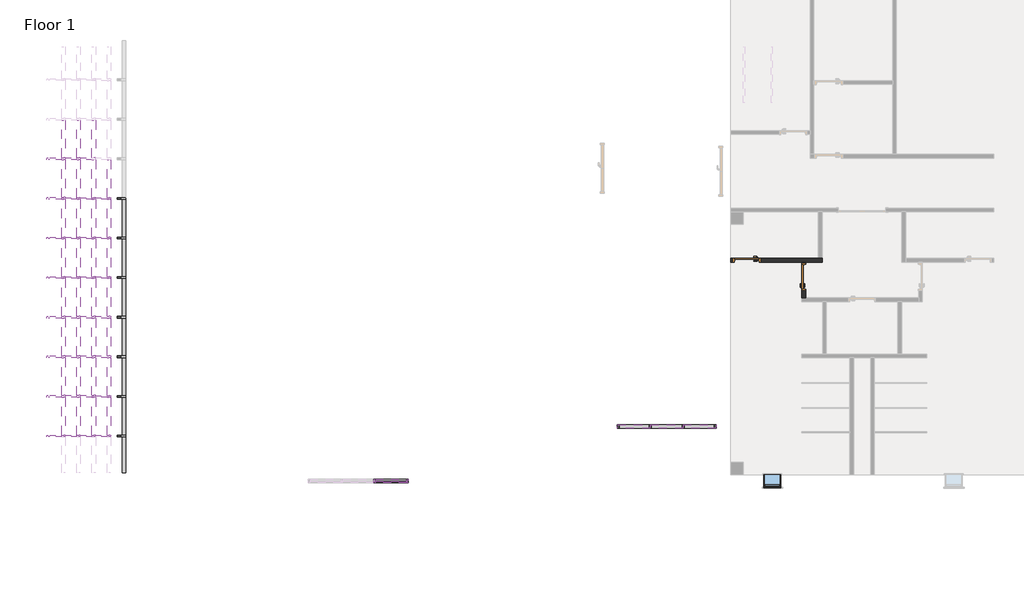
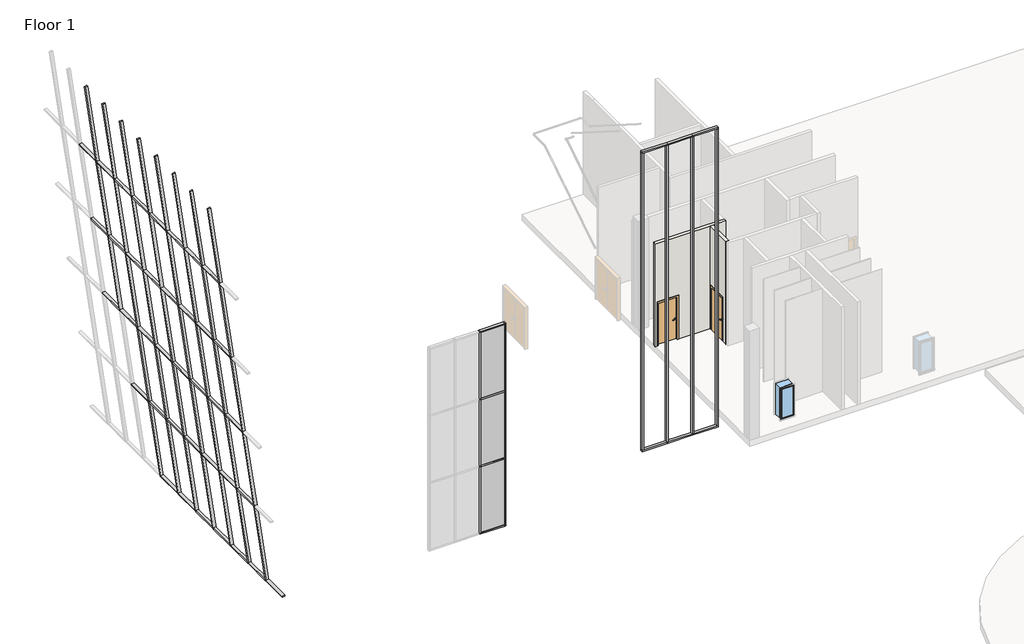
# One storey, part 3 of 11: 96 members, 3 plates, 2 doors, 2 walls, 1 window.
"""IFC4 building model written with IfcOpenShell, lengths in millimetres."""

from ifc_helpers import new_model, si_unit, frame, origin, place, context, project, spatial, polyline, outline, extrude, faceted_brep, transform, mapped, element, save
from components import door_36f17018, door_a46f4f49, member_7ac431fd, member_8669c44b, member_bd9c79d2, member_f8a9089e, member_5e02c13a, member_8caa64b4, member_b283b77b, member_01a33192, member_b037884b, member_01a4c065, member_349911e8, member_7b18d258, member_74dafc5e, member_9434a11c, system_panel_glazed_b92d501e, window_69ce9bab

model = new_model("IFC4")

# Units and contexts
model_context = context("Model", 3, world=origin())
ifc_project = project(units=[si_unit("LENGTHUNIT", "METRE", prefix="MILLI")], contexts=[model_context])

# Site, building, storey
site = spatial("IfcSite", under=ifc_project)
building = spatial("IfcBuilding", under=site)
storey = spatial("IfcBuildingStorey", under=building, Name="Floor 1", Elevation=0.0)

# Doors
placement = place(None, origin())
door_shape = door_36f17018(model_context)
element("IfcDoor", 1, ObjectType="Door-Passage-Single-Flush : 36\" x 84\"", at=placement, inside=storey, context=model_context, shape_type="MappedRepresentation", body=[
    mapped(door_shape, transform((-2380.0102165, 46455.811889, 0.0), x_axis=(-1.0, 0.0, 0.0), y_axis=(0.0, -1.0, 0.0), z_axis=(0.0, 0.0, 1.0))),
])
door_2_shape = door_a46f4f49(model_context)
element("IfcDoor", 2, ObjectType="Door-Passage-Single-Flush : 36\" x 84\"", at=placement, inside=storey, context=model_context, shape_type="MappedRepresentation", body=[
    mapped(door_2_shape, transform((-290.4807976, 45852.561889, 0.0), x_axis=(0.0, 1.0, 0.0), y_axis=(-1.0, 0.0, 0.0), z_axis=(0.0, 0.0, 1.0))),
])

# Members
member_shape = member_7ac431fd(model_context)
element("IfcMember", 3, ObjectType="Rectangular Mullion1 : 2.5\" x 5\" rectangular", at=placement, inside=storey, context=model_context, shape_type="MappedRepresentation", body=[
    mapped(member_shape, transform((-3497.6102165, 40372.511889, -152.4), x_axis=(0.0, 0.0, -1.0), y_axis=(0.0, 1.0, 0.0), z_axis=(1.0, 0.0, 0.0))),
])
element("IfcMember", 4, ObjectType="Rectangular Mullion1 : 2.5\" x 5\" rectangular", at=placement, inside=storey, context=model_context, shape_type="MappedRepresentation", body=[
    mapped(member_shape, transform((-7104.0307976, 40372.511889, 14935.2), x_axis=(0.0, 0.0, 1.0), y_axis=(0.0, 1.0, 0.0), z_axis=(-1.0, 0.0, 0.0))),
])
member_2_shape = member_8669c44b(model_context)
element("IfcMember", 5, ObjectType="Rectangular Mullion1 : 2.5\" x 5\" rectangular", at=placement, inside=storey, context=model_context, shape_type="MappedRepresentation", body=[
    mapped(member_2_shape, transform((-5901.8906039, 40372.511889, -88.9), x_axis=(-1.0, 0.0, 0.0), y_axis=(0.0, 1.0, 0.0), z_axis=(0.0, 0.0, -1.0))),
])
element("IfcMember", 6, ObjectType="Rectangular Mullion1 : 2.5\" x 5\" rectangular", at=placement, inside=storey, context=model_context, shape_type="MappedRepresentation", body=[
    mapped(member_2_shape, transform((-4699.7504102, 40372.511889, -88.9), x_axis=(-1.0, 0.0, 0.0), y_axis=(0.0, 1.0, 0.0), z_axis=(0.0, 0.0, -1.0))),
])
element("IfcMember", 7, ObjectType="Rectangular Mullion1 : 2.5\" x 5\" rectangular", at=placement, inside=storey, context=model_context, shape_type="MappedRepresentation", body=[
    mapped(member_shape, transform((-5901.8906039, 40372.511889, -152.4), x_axis=(0.0, 0.0, -1.0), y_axis=(0.0, 1.0, 0.0), z_axis=(1.0, 0.0, 0.0))),
])
element("IfcMember", 8, ObjectType="Rectangular Mullion1 : 2.5\" x 5\" rectangular", at=placement, inside=storey, context=model_context, shape_type="MappedRepresentation", body=[
    mapped(member_shape, transform((-4699.7504102, 40372.511889, -152.4), x_axis=(0.0, 0.0, -1.0), y_axis=(0.0, 1.0, 0.0), z_axis=(1.0, 0.0, 0.0))),
])
element("IfcMember", 9, ObjectType="Rectangular Mullion1 : 2.5\" x 5\" rectangular", at=placement, inside=storey, context=model_context, shape_type="MappedRepresentation", body=[
    mapped(member_shape, transform((-5901.8906039, 40372.511889, 14935.2), x_axis=(0.0, 0.0, 1.0), y_axis=(0.0, 1.0, 0.0), z_axis=(-1.0, 0.0, 0.0))),
])
element("IfcMember", 10, ObjectType="Rectangular Mullion1 : 2.5\" x 5\" rectangular", at=placement, inside=storey, context=model_context, shape_type="MappedRepresentation", body=[
    mapped(member_shape, transform((-4699.7504102, 40372.511889, 14935.2), x_axis=(0.0, 0.0, 1.0), y_axis=(0.0, 1.0, 0.0), z_axis=(-1.0, 0.0, 0.0))),
])
member_3_shape = member_bd9c79d2(model_context)
element("IfcMember", 11, ObjectType="Rectangular Mullion1 : 2.5\" x 5\" rectangular", at=placement, inside=storey, context=model_context, shape_type="MappedRepresentation", body=[
    mapped(member_3_shape, transform((-7104.0307976, 40372.511889, -88.9), x_axis=(-1.0, 0.0, 0.0), y_axis=(0.0, 1.0, 0.0), z_axis=(0.0, 0.0, -1.0))),
])
element("IfcMember", 12, ObjectType="Rectangular Mullion1 : 2.5\" x 5\" rectangular", at=placement, inside=storey, context=model_context, shape_type="MappedRepresentation", body=[
    mapped(member_3_shape, transform((-3497.6102165, 40372.511889, 14871.7), x_axis=(1.0, 0.0, 0.0), y_axis=(0.0, 1.0, 0.0), z_axis=(0.0, 0.0, 1.0))),
])
member_4_shape = member_f8a9089e(model_context)
element("IfcMember", 13, ObjectType="Rectangular Mullion1 : 2.5\" x 5\" rectangular", at=placement, inside=storey, context=model_context, shape_type="MappedRepresentation", body=[
    mapped(member_4_shape, transform((-25136.1948919, 40001.891697, -154.1674984), x_axis=(0.13917310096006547, 0.0, -0.9902680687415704), y_axis=(-0.9902680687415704, 0.0, -0.13917310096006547), z_axis=(0.0, 1.0, 0.0))),
])
member_5_shape = member_5e02c13a(model_context)
element("IfcMember", 14, ObjectType="Rectangular Mullion1 : 2.5\" x 5\" rectangular", at=placement, inside=storey, context=model_context, shape_type="MappedRepresentation", body=[
    mapped(member_5_shape, transform((-25136.1948919, 48684.2955428, -154.1674984), x_axis=(0.13917310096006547, 0.0, -0.9902680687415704), y_axis=(-0.9902680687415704, 0.0, -0.13917310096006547), z_axis=(0.0, 1.0, 0.0))),
])
element("IfcMember", 15, ObjectType="Rectangular Mullion1 : 2.5\" x 5\" rectangular", at=placement, inside=storey, context=model_context, shape_type="MappedRepresentation", body=[
    mapped(member_5_shape, transform((-25136.1948919, 47237.2282352, -154.1674984), x_axis=(0.13917310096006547, 0.0, -0.9902680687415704), y_axis=(-0.9902680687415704, 0.0, -0.13917310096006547), z_axis=(0.0, 1.0, 0.0))),
])
element("IfcMember", 16, ObjectType="Rectangular Mullion1 : 2.5\" x 5\" rectangular", at=placement, inside=storey, context=model_context, shape_type="MappedRepresentation", body=[
    mapped(member_5_shape, transform((-25136.1948919, 45790.1609275, -154.1674984), x_axis=(0.13917310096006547, 0.0, -0.9902680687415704), y_axis=(-0.9902680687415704, 0.0, -0.13917310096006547), z_axis=(0.0, 1.0, 0.0))),
])
element("IfcMember", 17, ObjectType="Rectangular Mullion1 : 2.5\" x 5\" rectangular", at=placement, inside=storey, context=model_context, shape_type="MappedRepresentation", body=[
    mapped(member_5_shape, transform((-25136.1948919, 44343.0936199, -154.1674984), x_axis=(0.13917310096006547, 0.0, -0.9902680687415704), y_axis=(-0.9902680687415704, 0.0, -0.13917310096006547), z_axis=(0.0, 1.0, 0.0))),
])
element("IfcMember", 18, ObjectType="Rectangular Mullion1 : 2.5\" x 5\" rectangular", at=placement, inside=storey, context=model_context, shape_type="MappedRepresentation", body=[
    mapped(member_5_shape, transform((-25136.1948919, 42896.0263122, -154.1674984), x_axis=(0.13917310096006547, 0.0, -0.9902680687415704), y_axis=(-0.9902680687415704, 0.0, -0.13917310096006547), z_axis=(0.0, 1.0, 0.0))),
])
element("IfcMember", 19, ObjectType="Rectangular Mullion1 : 2.5\" x 5\" rectangular", at=placement, inside=storey, context=model_context, shape_type="MappedRepresentation", body=[
    mapped(member_5_shape, transform((-25136.1948919, 41448.9590046, -154.1674984), x_axis=(0.13917310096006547, 0.0, -0.9902680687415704), y_axis=(-0.9902680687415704, 0.0, -0.13917310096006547), z_axis=(0.0, 1.0, 0.0))),
])
member_6_shape = member_8caa64b4(model_context)
element("IfcMember", 20, ObjectType="Rectangular Mullion1 : 2.5\" x 5\" rectangular", at=placement, inside=storey, context=model_context, shape_type="MappedRepresentation", body=[
    mapped(member_6_shape, transform((-25693.3790742, 48747.7955428, 3810.4039622), x_axis=(-0.13917310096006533, 0.0, 0.9902680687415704), y_axis=(-0.9902680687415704, 0.0, -0.13917310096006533), z_axis=(0.0, -1.0, 0.0))),
])
element("IfcMember", 21, ObjectType="Rectangular Mullion1 : 2.5\" x 5\" rectangular", at=placement, inside=storey, context=model_context, shape_type="MappedRepresentation", body=[
    mapped(member_6_shape, transform((-25693.3790742, 47300.7282352, 3810.4039622), x_axis=(-0.13917310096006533, 0.0, 0.9902680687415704), y_axis=(-0.9902680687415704, 0.0, -0.13917310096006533), z_axis=(0.0, -1.0, 0.0))),
])
element("IfcMember", 22, ObjectType="Rectangular Mullion1 : 2.5\" x 5\" rectangular", at=placement, inside=storey, context=model_context, shape_type="MappedRepresentation", body=[
    mapped(member_6_shape, transform((-25693.3790742, 45853.6609275, 3810.4039622), x_axis=(-0.13917310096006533, 0.0, 0.9902680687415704), y_axis=(-0.9902680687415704, 0.0, -0.13917310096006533), z_axis=(0.0, -1.0, 0.0))),
])
element("IfcMember", 23, ObjectType="Rectangular Mullion1 : 2.5\" x 5\" rectangular", at=placement, inside=storey, context=model_context, shape_type="MappedRepresentation", body=[
    mapped(member_6_shape, transform((-25693.3790742, 44406.5936199, 3810.4039622), x_axis=(-0.13917310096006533, 0.0, 0.9902680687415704), y_axis=(-0.9902680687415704, 0.0, -0.13917310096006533), z_axis=(0.0, -1.0, 0.0))),
])
element("IfcMember", 24, ObjectType="Rectangular Mullion1 : 2.5\" x 5\" rectangular", at=placement, inside=storey, context=model_context, shape_type="MappedRepresentation", body=[
    mapped(member_6_shape, transform((-25693.3790742, 42959.5263122, 3810.4039622), x_axis=(-0.13917310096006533, 0.0, 0.9902680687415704), y_axis=(-0.9902680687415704, 0.0, -0.13917310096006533), z_axis=(0.0, -1.0, 0.0))),
])
element("IfcMember", 25, ObjectType="Rectangular Mullion1 : 2.5\" x 5\" rectangular", at=placement, inside=storey, context=model_context, shape_type="MappedRepresentation", body=[
    mapped(member_6_shape, transform((-25693.3790742, 41512.4590046, 3810.4039622), x_axis=(-0.13917310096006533, 0.0, 0.9902680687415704), y_axis=(-0.9902680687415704, 0.0, -0.13917310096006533), z_axis=(0.0, -1.0, 0.0))),
])
element("IfcMember", 26, ObjectType="Rectangular Mullion1 : 2.5\" x 5\" rectangular", at=placement, inside=storey, context=model_context, shape_type="MappedRepresentation", body=[
    mapped(member_6_shape, transform((-25693.3790742, 40065.391697, 3810.4039622), x_axis=(-0.13917310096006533, 0.0, 0.9902680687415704), y_axis=(-0.9902680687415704, 0.0, -0.13917310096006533), z_axis=(0.0, -1.0, 0.0))),
])
element("IfcMember", 27, ObjectType="Rectangular Mullion1 : 2.5\" x 5\" rectangular", at=placement, inside=storey, context=model_context, shape_type="MappedRepresentation", body=[
    mapped(member_6_shape, transform((-26246.1445106, 50194.8628505, 7743.5344115), x_axis=(-0.13917310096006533, 0.0, 0.9902680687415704), y_axis=(-0.9902680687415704, 0.0, -0.13917310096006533), z_axis=(0.0, -1.0, 0.0))),
])
element("IfcMember", 28, ObjectType="Rectangular Mullion1 : 2.5\" x 5\" rectangular", at=placement, inside=storey, context=model_context, shape_type="MappedRepresentation", body=[
    mapped(member_6_shape, transform((-26246.1445106, 48747.7955428, 7743.5344115), x_axis=(-0.13917310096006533, 0.0, 0.9902680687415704), y_axis=(-0.9902680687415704, 0.0, -0.13917310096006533), z_axis=(0.0, -1.0, 0.0))),
])
element("IfcMember", 29, ObjectType="Rectangular Mullion1 : 2.5\" x 5\" rectangular", at=placement, inside=storey, context=model_context, shape_type="MappedRepresentation", body=[
    mapped(member_6_shape, transform((-26246.1445106, 47300.7282352, 7743.5344115), x_axis=(-0.13917310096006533, 0.0, 0.9902680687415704), y_axis=(-0.9902680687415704, 0.0, -0.13917310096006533), z_axis=(0.0, -1.0, 0.0))),
])
element("IfcMember", 30, ObjectType="Rectangular Mullion1 : 2.5\" x 5\" rectangular", at=placement, inside=storey, context=model_context, shape_type="MappedRepresentation", body=[
    mapped(member_6_shape, transform((-26246.1445106, 45853.6609275, 7743.5344115), x_axis=(-0.13917310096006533, 0.0, 0.9902680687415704), y_axis=(-0.9902680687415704, 0.0, -0.13917310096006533), z_axis=(0.0, -1.0, 0.0))),
])
element("IfcMember", 31, ObjectType="Rectangular Mullion1 : 2.5\" x 5\" rectangular", at=placement, inside=storey, context=model_context, shape_type="MappedRepresentation", body=[
    mapped(member_6_shape, transform((-26246.1445106, 44406.5936199, 7743.5344115), x_axis=(-0.13917310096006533, 0.0, 0.9902680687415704), y_axis=(-0.9902680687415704, 0.0, -0.13917310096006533), z_axis=(0.0, -1.0, 0.0))),
])
element("IfcMember", 32, ObjectType="Rectangular Mullion1 : 2.5\" x 5\" rectangular", at=placement, inside=storey, context=model_context, shape_type="MappedRepresentation", body=[
    mapped(member_6_shape, transform((-26246.1445106, 42959.5263122, 7743.5344115), x_axis=(-0.13917310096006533, 0.0, 0.9902680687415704), y_axis=(-0.9902680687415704, 0.0, -0.13917310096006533), z_axis=(0.0, -1.0, 0.0))),
])
element("IfcMember", 33, ObjectType="Rectangular Mullion1 : 2.5\" x 5\" rectangular", at=placement, inside=storey, context=model_context, shape_type="MappedRepresentation", body=[
    mapped(member_6_shape, transform((-26246.1445106, 41512.4590046, 7743.5344115), x_axis=(-0.13917310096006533, 0.0, 0.9902680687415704), y_axis=(-0.9902680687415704, 0.0, -0.13917310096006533), z_axis=(0.0, -1.0, 0.0))),
])
element("IfcMember", 34, ObjectType="Rectangular Mullion1 : 2.5\" x 5\" rectangular", at=placement, inside=storey, context=model_context, shape_type="MappedRepresentation", body=[
    mapped(member_6_shape, transform((-26246.1445106, 40065.391697, 7743.5344115), x_axis=(-0.13917310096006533, 0.0, 0.9902680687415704), y_axis=(-0.9902680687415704, 0.0, -0.13917310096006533), z_axis=(0.0, -1.0, 0.0))),
])
element("IfcMember", 35, ObjectType="Rectangular Mullion1 : 2.5\" x 5\" rectangular", at=placement, inside=storey, context=model_context, shape_type="MappedRepresentation", body=[
    mapped(member_6_shape, transform((-26798.9099469, 50194.8628505, 11676.6648609), x_axis=(-0.13917310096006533, 0.0, 0.9902680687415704), y_axis=(-0.9902680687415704, 0.0, -0.13917310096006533), z_axis=(0.0, -1.0, 0.0))),
])
element("IfcMember", 36, ObjectType="Rectangular Mullion1 : 2.5\" x 5\" rectangular", at=placement, inside=storey, context=model_context, shape_type="MappedRepresentation", body=[
    mapped(member_6_shape, transform((-26798.9099469, 48747.7955428, 11676.6648609), x_axis=(-0.13917310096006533, 0.0, 0.9902680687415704), y_axis=(-0.9902680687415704, 0.0, -0.13917310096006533), z_axis=(0.0, -1.0, 0.0))),
])
element("IfcMember", 37, ObjectType="Rectangular Mullion1 : 2.5\" x 5\" rectangular", at=placement, inside=storey, context=model_context, shape_type="MappedRepresentation", body=[
    mapped(member_6_shape, transform((-26798.9099469, 47300.7282352, 11676.6648609), x_axis=(-0.13917310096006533, 0.0, 0.9902680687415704), y_axis=(-0.9902680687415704, 0.0, -0.13917310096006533), z_axis=(0.0, -1.0, 0.0))),
])
element("IfcMember", 38, ObjectType="Rectangular Mullion1 : 2.5\" x 5\" rectangular", at=placement, inside=storey, context=model_context, shape_type="MappedRepresentation", body=[
    mapped(member_6_shape, transform((-26798.9099469, 45853.6609275, 11676.6648609), x_axis=(-0.13917310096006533, 0.0, 0.9902680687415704), y_axis=(-0.9902680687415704, 0.0, -0.13917310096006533), z_axis=(0.0, -1.0, 0.0))),
])
element("IfcMember", 39, ObjectType="Rectangular Mullion1 : 2.5\" x 5\" rectangular", at=placement, inside=storey, context=model_context, shape_type="MappedRepresentation", body=[
    mapped(member_6_shape, transform((-26798.9099469, 44406.5936199, 11676.6648609), x_axis=(-0.13917310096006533, 0.0, 0.9902680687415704), y_axis=(-0.9902680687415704, 0.0, -0.13917310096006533), z_axis=(0.0, -1.0, 0.0))),
])
element("IfcMember", 40, ObjectType="Rectangular Mullion1 : 2.5\" x 5\" rectangular", at=placement, inside=storey, context=model_context, shape_type="MappedRepresentation", body=[
    mapped(member_6_shape, transform((-26798.9099469, 42959.5263122, 11676.6648609), x_axis=(-0.13917310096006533, 0.0, 0.9902680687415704), y_axis=(-0.9902680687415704, 0.0, -0.13917310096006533), z_axis=(0.0, -1.0, 0.0))),
])
element("IfcMember", 41, ObjectType="Rectangular Mullion1 : 2.5\" x 5\" rectangular", at=placement, inside=storey, context=model_context, shape_type="MappedRepresentation", body=[
    mapped(member_6_shape, transform((-26798.9099469, 41512.4590046, 11676.6648609), x_axis=(-0.13917310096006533, 0.0, 0.9902680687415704), y_axis=(-0.9902680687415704, 0.0, -0.13917310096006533), z_axis=(0.0, -1.0, 0.0))),
])
element("IfcMember", 42, ObjectType="Rectangular Mullion1 : 2.5\" x 5\" rectangular", at=placement, inside=storey, context=model_context, shape_type="MappedRepresentation", body=[
    mapped(member_6_shape, transform((-26798.9099469, 40065.391697, 11676.6648609), x_axis=(-0.13917310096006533, 0.0, 0.9902680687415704), y_axis=(-0.9902680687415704, 0.0, -0.13917310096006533), z_axis=(0.0, -1.0, 0.0))),
])
element("IfcMember", 43, ObjectType="Rectangular Mullion1 : 2.5\" x 5\" rectangular", at=placement, inside=storey, context=model_context, shape_type="MappedRepresentation", body=[
    mapped(member_6_shape, transform((-27351.6753833, 50194.8628505, 15609.7953102), x_axis=(-0.13917310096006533, 0.0, 0.9902680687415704), y_axis=(-0.9902680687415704, 0.0, -0.13917310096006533), z_axis=(0.0, -1.0, 0.0))),
])
element("IfcMember", 44, ObjectType="Rectangular Mullion1 : 2.5\" x 5\" rectangular", at=placement, inside=storey, context=model_context, shape_type="MappedRepresentation", body=[
    mapped(member_6_shape, transform((-27351.6753833, 48747.7955428, 15609.7953102), x_axis=(-0.13917310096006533, 0.0, 0.9902680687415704), y_axis=(-0.9902680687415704, 0.0, -0.13917310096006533), z_axis=(0.0, -1.0, 0.0))),
])
element("IfcMember", 45, ObjectType="Rectangular Mullion1 : 2.5\" x 5\" rectangular", at=placement, inside=storey, context=model_context, shape_type="MappedRepresentation", body=[
    mapped(member_6_shape, transform((-27351.6753833, 47300.7282352, 15609.7953102), x_axis=(-0.13917310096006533, 0.0, 0.9902680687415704), y_axis=(-0.9902680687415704, 0.0, -0.13917310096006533), z_axis=(0.0, -1.0, 0.0))),
])
element("IfcMember", 46, ObjectType="Rectangular Mullion1 : 2.5\" x 5\" rectangular", at=placement, inside=storey, context=model_context, shape_type="MappedRepresentation", body=[
    mapped(member_6_shape, transform((-27351.6753833, 45853.6609275, 15609.7953102), x_axis=(-0.13917310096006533, 0.0, 0.9902680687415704), y_axis=(-0.9902680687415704, 0.0, -0.13917310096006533), z_axis=(0.0, -1.0, 0.0))),
])
element("IfcMember", 47, ObjectType="Rectangular Mullion1 : 2.5\" x 5\" rectangular", at=placement, inside=storey, context=model_context, shape_type="MappedRepresentation", body=[
    mapped(member_6_shape, transform((-27351.6753833, 44406.5936199, 15609.7953102), x_axis=(-0.13917310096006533, 0.0, 0.9902680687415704), y_axis=(-0.9902680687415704, 0.0, -0.13917310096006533), z_axis=(0.0, -1.0, 0.0))),
])
element("IfcMember", 48, ObjectType="Rectangular Mullion1 : 2.5\" x 5\" rectangular", at=placement, inside=storey, context=model_context, shape_type="MappedRepresentation", body=[
    mapped(member_6_shape, transform((-27351.6753833, 42959.5263122, 15609.7953102), x_axis=(-0.13917310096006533, 0.0, 0.9902680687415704), y_axis=(-0.9902680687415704, 0.0, -0.13917310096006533), z_axis=(0.0, -1.0, 0.0))),
])
element("IfcMember", 49, ObjectType="Rectangular Mullion1 : 2.5\" x 5\" rectangular", at=placement, inside=storey, context=model_context, shape_type="MappedRepresentation", body=[
    mapped(member_6_shape, transform((-27351.6753833, 41512.4590046, 15609.7953102), x_axis=(-0.13917310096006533, 0.0, 0.9902680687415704), y_axis=(-0.9902680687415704, 0.0, -0.13917310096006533), z_axis=(0.0, -1.0, 0.0))),
])
element("IfcMember", 50, ObjectType="Rectangular Mullion1 : 2.5\" x 5\" rectangular", at=placement, inside=storey, context=model_context, shape_type="MappedRepresentation", body=[
    mapped(member_6_shape, transform((-27351.6753833, 40065.391697, 15609.7953102), x_axis=(-0.13917310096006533, 0.0, 0.9902680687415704), y_axis=(-0.9902680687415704, 0.0, -0.13917310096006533), z_axis=(0.0, -1.0, 0.0))),
])
member_7_shape = member_b283b77b(model_context)
element("IfcMember", 51, ObjectType="Rectangular Mullion1 : 2.5\" x 5\" rectangular", at=placement, inside=storey, context=model_context, shape_type="MappedRepresentation", body=[
    mapped(member_7_shape, transform((-25136.1948919, 48716.0455428, -154.1674984), x_axis=(0.0, -1.0, 0.0), y_axis=(-0.9902680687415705, 0.0, -0.13917310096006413), z_axis=(0.13917310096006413, 0.0, -0.9902680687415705))),
])
element("IfcMember", 52, ObjectType="Rectangular Mullion1 : 2.5\" x 5\" rectangular", at=placement, inside=storey, context=model_context, shape_type="MappedRepresentation", body=[
    mapped(member_7_shape, transform((-25136.1948919, 47268.9782352, -154.1674984), x_axis=(0.0, -1.0, 0.0), y_axis=(-0.9902680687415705, 0.0, -0.13917310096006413), z_axis=(0.13917310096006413, 0.0, -0.9902680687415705))),
])
element("IfcMember", 53, ObjectType="Rectangular Mullion1 : 2.5\" x 5\" rectangular", at=placement, inside=storey, context=model_context, shape_type="MappedRepresentation", body=[
    mapped(member_7_shape, transform((-25136.1948919, 45821.9109275, -154.1674984), x_axis=(0.0, -1.0, 0.0), y_axis=(-0.9902680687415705, 0.0, -0.13917310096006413), z_axis=(0.13917310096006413, 0.0, -0.9902680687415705))),
])
element("IfcMember", 54, ObjectType="Rectangular Mullion1 : 2.5\" x 5\" rectangular", at=placement, inside=storey, context=model_context, shape_type="MappedRepresentation", body=[
    mapped(member_7_shape, transform((-25136.1948919, 44374.8436199, -154.1674984), x_axis=(0.0, -1.0, 0.0), y_axis=(-0.9902680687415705, 0.0, -0.13917310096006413), z_axis=(0.13917310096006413, 0.0, -0.9902680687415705))),
])
element("IfcMember", 55, ObjectType="Rectangular Mullion1 : 2.5\" x 5\" rectangular", at=placement, inside=storey, context=model_context, shape_type="MappedRepresentation", body=[
    mapped(member_7_shape, transform((-25136.1948919, 42927.7763122, -154.1674984), x_axis=(0.0, -1.0, 0.0), y_axis=(-0.9902680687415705, 0.0, -0.13917310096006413), z_axis=(0.13917310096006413, 0.0, -0.9902680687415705))),
])
element("IfcMember", 56, ObjectType="Rectangular Mullion1 : 2.5\" x 5\" rectangular", at=placement, inside=storey, context=model_context, shape_type="MappedRepresentation", body=[
    mapped(member_7_shape, transform((-25136.1948919, 41480.7090046, -154.1674984), x_axis=(0.0, -1.0, 0.0), y_axis=(-0.99026806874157, 0.0, -0.1391731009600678), z_axis=(0.1391731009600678, 0.0, -0.99026806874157))),
])
element("IfcMember", 57, ObjectType="Rectangular Mullion1 : 2.5\" x 5\" rectangular", at=placement, inside=storey, context=model_context, shape_type="MappedRepresentation", body=[
    mapped(member_7_shape, transform((-25136.1948919, 40033.641697, -154.1674984), x_axis=(0.0, -1.0, 0.0), y_axis=(-0.9902680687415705, 0.0, -0.13917310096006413), z_axis=(0.13917310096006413, 0.0, -0.9902680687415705))),
])
member_8_shape = member_01a33192(model_context)
element("IfcMember", 58, ObjectType="Rectangular Mullion1 : 2.5\" x 5\" rectangular", at=placement, inside=storey, context=model_context, shape_type="MappedRepresentation", body=[
    mapped(member_8_shape, transform((-25693.3790742, 48716.0455428, 3810.4039622), x_axis=(0.0, -1.0, 0.0), y_axis=(-0.9902680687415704, 0.0, -0.13917310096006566), z_axis=(0.13917310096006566, 0.0, -0.9902680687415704))),
])
element("IfcMember", 59, ObjectType="Rectangular Mullion1 : 2.5\" x 5\" rectangular", at=placement, inside=storey, context=model_context, shape_type="MappedRepresentation", body=[
    mapped(member_8_shape, transform((-25693.3790742, 47268.9782352, 3810.4039622), x_axis=(0.0, -1.0, 0.0), y_axis=(-0.9902680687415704, 0.0, -0.13917310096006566), z_axis=(0.13917310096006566, 0.0, -0.9902680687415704))),
])
element("IfcMember", 60, ObjectType="Rectangular Mullion1 : 2.5\" x 5\" rectangular", at=placement, inside=storey, context=model_context, shape_type="MappedRepresentation", body=[
    mapped(member_8_shape, transform((-25693.3790742, 45821.9109275, 3810.4039622), x_axis=(0.0, -1.0, 0.0), y_axis=(-0.9902680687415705, 0.0, -0.13917310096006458), z_axis=(0.13917310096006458, 0.0, -0.9902680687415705))),
])
element("IfcMember", 61, ObjectType="Rectangular Mullion1 : 2.5\" x 5\" rectangular", at=placement, inside=storey, context=model_context, shape_type="MappedRepresentation", body=[
    mapped(member_8_shape, transform((-25693.3790742, 44374.8436199, 3810.4039622), x_axis=(0.0, -1.0, 0.0), y_axis=(-0.9902680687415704, 0.0, -0.13917310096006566), z_axis=(0.13917310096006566, 0.0, -0.9902680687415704))),
])
element("IfcMember", 62, ObjectType="Rectangular Mullion1 : 2.5\" x 5\" rectangular", at=placement, inside=storey, context=model_context, shape_type="MappedRepresentation", body=[
    mapped(member_8_shape, transform((-25693.3790742, 42927.7763122, 3810.4039622), x_axis=(0.0, -1.0, 0.0), y_axis=(-0.9902680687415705, 0.0, -0.13917310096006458), z_axis=(0.13917310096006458, 0.0, -0.9902680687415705))),
])
element("IfcMember", 63, ObjectType="Rectangular Mullion1 : 2.5\" x 5\" rectangular", at=placement, inside=storey, context=model_context, shape_type="MappedRepresentation", body=[
    mapped(member_8_shape, transform((-25693.3790742, 41480.7090046, 3810.4039622), x_axis=(0.0, -1.0, 0.0), y_axis=(-0.9902680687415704, 0.0, -0.13917310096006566), z_axis=(0.13917310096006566, 0.0, -0.9902680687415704))),
])
element("IfcMember", 64, ObjectType="Rectangular Mullion1 : 2.5\" x 5\" rectangular", at=placement, inside=storey, context=model_context, shape_type="MappedRepresentation", body=[
    mapped(member_8_shape, transform((-25693.3790742, 40033.641697, 3810.4039622), x_axis=(0.0, -1.0, 0.0), y_axis=(-0.9902680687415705, 0.0, -0.13917310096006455), z_axis=(0.13917310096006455, 0.0, -0.9902680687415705))),
])
element("IfcMember", 65, ObjectType="Rectangular Mullion1 : 2.5\" x 5\" rectangular", at=placement, inside=storey, context=model_context, shape_type="MappedRepresentation", body=[
    mapped(member_8_shape, transform((-26246.1445106, 50163.1128505, 7743.5344115), x_axis=(0.0, -1.0, 0.0), y_axis=(-0.9902680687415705, 0.0, -0.13917310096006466), z_axis=(0.13917310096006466, 0.0, -0.9902680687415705))),
])
element("IfcMember", 66, ObjectType="Rectangular Mullion1 : 2.5\" x 5\" rectangular", at=placement, inside=storey, context=model_context, shape_type="MappedRepresentation", body=[
    mapped(member_8_shape, transform((-26246.1445106, 48716.0455428, 7743.5344115), x_axis=(0.0, -1.0, 0.0), y_axis=(-0.9902680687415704, 0.0, -0.13917310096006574), z_axis=(0.13917310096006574, 0.0, -0.9902680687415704))),
])
element("IfcMember", 67, ObjectType="Rectangular Mullion1 : 2.5\" x 5\" rectangular", at=placement, inside=storey, context=model_context, shape_type="MappedRepresentation", body=[
    mapped(member_8_shape, transform((-26246.1445106, 47268.9782352, 7743.5344115), x_axis=(0.0, -1.0, 0.0), y_axis=(-0.9902680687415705, 0.0, -0.13917310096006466), z_axis=(0.13917310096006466, 0.0, -0.9902680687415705))),
])
element("IfcMember", 68, ObjectType="Rectangular Mullion1 : 2.5\" x 5\" rectangular", at=placement, inside=storey, context=model_context, shape_type="MappedRepresentation", body=[
    mapped(member_8_shape, transform((-26246.1445106, 45821.9109275, 7743.5344115), x_axis=(0.0, -1.0, 0.0), y_axis=(-0.9902680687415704, 0.0, -0.13917310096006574), z_axis=(0.13917310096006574, 0.0, -0.9902680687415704))),
])
element("IfcMember", 69, ObjectType="Rectangular Mullion1 : 2.5\" x 5\" rectangular", at=placement, inside=storey, context=model_context, shape_type="MappedRepresentation", body=[
    mapped(member_8_shape, transform((-26246.1445106, 44374.8436199, 7743.5344115), x_axis=(0.0, -1.0, 0.0), y_axis=(-0.9902680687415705, 0.0, -0.13917310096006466), z_axis=(0.13917310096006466, 0.0, -0.9902680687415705))),
])
element("IfcMember", 70, ObjectType="Rectangular Mullion1 : 2.5\" x 5\" rectangular", at=placement, inside=storey, context=model_context, shape_type="MappedRepresentation", body=[
    mapped(member_8_shape, transform((-26246.1445106, 42927.7763122, 7743.5344115), x_axis=(0.0, -1.0, 0.0), y_axis=(-0.9902680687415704, 0.0, -0.13917310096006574), z_axis=(0.13917310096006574, 0.0, -0.9902680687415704))),
])
element("IfcMember", 71, ObjectType="Rectangular Mullion1 : 2.5\" x 5\" rectangular", at=placement, inside=storey, context=model_context, shape_type="MappedRepresentation", body=[
    mapped(member_8_shape, transform((-26246.1445106, 41480.7090046, 7743.5344115), x_axis=(0.0, -1.0, 0.0), y_axis=(-0.9902680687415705, 0.0, -0.13917310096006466), z_axis=(0.13917310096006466, 0.0, -0.9902680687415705))),
])
element("IfcMember", 72, ObjectType="Rectangular Mullion1 : 2.5\" x 5\" rectangular", at=placement, inside=storey, context=model_context, shape_type="MappedRepresentation", body=[
    mapped(member_8_shape, transform((-26246.1445106, 40033.641697, 7743.5344115), x_axis=(0.0, -1.0, 0.0), y_axis=(-0.9902680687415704, 0.0, -0.13917310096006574), z_axis=(0.13917310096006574, 0.0, -0.9902680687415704))),
])
element("IfcMember", 73, ObjectType="Rectangular Mullion1 : 2.5\" x 5\" rectangular", at=placement, inside=storey, context=model_context, shape_type="MappedRepresentation", body=[
    mapped(member_8_shape, transform((-26798.9099469, 50163.1128505, 11676.6648609), x_axis=(0.0, -1.0, 0.0), y_axis=(-0.9902680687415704, 0.0, -0.13917310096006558), z_axis=(0.13917310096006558, 0.0, -0.9902680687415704))),
])
element("IfcMember", 74, ObjectType="Rectangular Mullion1 : 2.5\" x 5\" rectangular", at=placement, inside=storey, context=model_context, shape_type="MappedRepresentation", body=[
    mapped(member_8_shape, transform((-26798.9099469, 48716.0455428, 11676.6648609), x_axis=(0.0, -1.0, 0.0), y_axis=(-0.9902680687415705, 0.0, -0.1391731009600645), z_axis=(0.1391731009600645, 0.0, -0.9902680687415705))),
])
element("IfcMember", 75, ObjectType="Rectangular Mullion1 : 2.5\" x 5\" rectangular", at=placement, inside=storey, context=model_context, shape_type="MappedRepresentation", body=[
    mapped(member_8_shape, transform((-26798.9099469, 47268.9782352, 11676.6648609), x_axis=(0.0, -1.0, 0.0), y_axis=(-0.9902680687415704, 0.0, -0.13917310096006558), z_axis=(0.13917310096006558, 0.0, -0.9902680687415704))),
])
element("IfcMember", 76, ObjectType="Rectangular Mullion1 : 2.5\" x 5\" rectangular", at=placement, inside=storey, context=model_context, shape_type="MappedRepresentation", body=[
    mapped(member_8_shape, transform((-26798.9099469, 45821.9109275, 11676.6648609), x_axis=(0.0, -1.0, 0.0), y_axis=(-0.9902680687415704, 0.0, -0.13917310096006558), z_axis=(0.13917310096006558, 0.0, -0.9902680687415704))),
])
element("IfcMember", 77, ObjectType="Rectangular Mullion1 : 2.5\" x 5\" rectangular", at=placement, inside=storey, context=model_context, shape_type="MappedRepresentation", body=[
    mapped(member_8_shape, transform((-26798.9099469, 44374.8436199, 11676.6648609), x_axis=(0.0, -1.0, 0.0), y_axis=(-0.9902680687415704, 0.0, -0.13917310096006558), z_axis=(0.13917310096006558, 0.0, -0.9902680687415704))),
])
element("IfcMember", 78, ObjectType="Rectangular Mullion1 : 2.5\" x 5\" rectangular", at=placement, inside=storey, context=model_context, shape_type="MappedRepresentation", body=[
    mapped(member_8_shape, transform((-26798.9099469, 42927.7763122, 11676.6648609), x_axis=(0.0, -1.0, 0.0), y_axis=(-0.9902680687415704, 0.0, -0.13917310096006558), z_axis=(0.13917310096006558, 0.0, -0.9902680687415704))),
])
element("IfcMember", 79, ObjectType="Rectangular Mullion1 : 2.5\" x 5\" rectangular", at=placement, inside=storey, context=model_context, shape_type="MappedRepresentation", body=[
    mapped(member_8_shape, transform((-26798.9099469, 41480.7090046, 11676.6648609), x_axis=(0.0, -1.0, 0.0), y_axis=(-0.9902680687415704, 0.0, -0.13917310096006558), z_axis=(0.13917310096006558, 0.0, -0.9902680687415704))),
])
element("IfcMember", 80, ObjectType="Rectangular Mullion1 : 2.5\" x 5\" rectangular", at=placement, inside=storey, context=model_context, shape_type="MappedRepresentation", body=[
    mapped(member_8_shape, transform((-26798.9099469, 40033.641697, 11676.6648609), x_axis=(0.0, -1.0, 0.0), y_axis=(-0.9902680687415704, 0.0, -0.13917310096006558), z_axis=(0.13917310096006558, 0.0, -0.9902680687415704))),
])
element("IfcMember", 81, ObjectType="Rectangular Mullion1 : 2.5\" x 5\" rectangular", at=placement, inside=storey, context=model_context, shape_type="MappedRepresentation", body=[
    mapped(member_7_shape, transform((-27351.6753833, 50163.1128505, 15609.7953102), x_axis=(0.0, -1.0, 0.0), y_axis=(-0.9902680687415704, 0.0, -0.13917310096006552), z_axis=(0.1391731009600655, 0.0, -0.9902680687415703))),
])
element("IfcMember", 82, ObjectType="Rectangular Mullion1 : 2.5\" x 5\" rectangular", at=placement, inside=storey, context=model_context, shape_type="MappedRepresentation", body=[
    mapped(member_7_shape, transform((-27351.6753833, 48716.0455428, 15609.7953102), x_axis=(0.0, -1.0, 0.0), y_axis=(-0.9902680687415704, 0.0, -0.13917310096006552), z_axis=(0.1391731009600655, 0.0, -0.9902680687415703))),
])
element("IfcMember", 83, ObjectType="Rectangular Mullion1 : 2.5\" x 5\" rectangular", at=placement, inside=storey, context=model_context, shape_type="MappedRepresentation", body=[
    mapped(member_7_shape, transform((-27351.6753833, 47268.9782352, 15609.7953102), x_axis=(0.0, -1.0, 0.0), y_axis=(-0.9902680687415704, 0.0, -0.13917310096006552), z_axis=(0.1391731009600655, 0.0, -0.9902680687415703))),
])
element("IfcMember", 84, ObjectType="Rectangular Mullion1 : 2.5\" x 5\" rectangular", at=placement, inside=storey, context=model_context, shape_type="MappedRepresentation", body=[
    mapped(member_7_shape, transform((-27351.6753833, 45821.9109275, 15609.7953102), x_axis=(0.0, -1.0, 0.0), y_axis=(-0.9902680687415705, 0.0, -0.13917310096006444), z_axis=(0.13917310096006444, 0.0, -0.9902680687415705))),
])
element("IfcMember", 85, ObjectType="Rectangular Mullion1 : 2.5\" x 5\" rectangular", at=placement, inside=storey, context=model_context, shape_type="MappedRepresentation", body=[
    mapped(member_7_shape, transform((-27351.6753833, 44374.8436199, 15609.7953102), x_axis=(0.0, -1.0, 0.0), y_axis=(-0.9902680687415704, 0.0, -0.13917310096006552), z_axis=(0.1391731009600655, 0.0, -0.9902680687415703))),
])
element("IfcMember", 86, ObjectType="Rectangular Mullion1 : 2.5\" x 5\" rectangular", at=placement, inside=storey, context=model_context, shape_type="MappedRepresentation", body=[
    mapped(member_7_shape, transform((-27351.6753833, 42927.7763122, 15609.7953102), x_axis=(0.0, -1.0, 0.0), y_axis=(-0.9902680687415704, 0.0, -0.13917310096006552), z_axis=(0.1391731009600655, 0.0, -0.9902680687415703))),
])
element("IfcMember", 87, ObjectType="Rectangular Mullion1 : 2.5\" x 5\" rectangular", at=placement, inside=storey, context=model_context, shape_type="MappedRepresentation", body=[
    mapped(member_7_shape, transform((-27351.6753833, 41480.7090046, 15609.7953102), x_axis=(0.0, -1.0, 0.0), y_axis=(-0.9902680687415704, 0.0, -0.13917310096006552), z_axis=(0.1391731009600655, 0.0, -0.9902680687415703))),
])
element("IfcMember", 88, ObjectType="Rectangular Mullion1 : 2.5\" x 5\" rectangular", at=placement, inside=storey, context=model_context, shape_type="MappedRepresentation", body=[
    mapped(member_7_shape, transform((-27351.6753833, 40033.641697, 15609.7953102), x_axis=(0.0, -1.0, 0.0), y_axis=(-0.9902680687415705, 0.0, -0.13917310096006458), z_axis=(0.13917310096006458, 0.0, -0.9902680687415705))),
])
member_9_shape = member_b037884b(model_context)
element("IfcMember", 89, ObjectType="Rectangular Mullion1 : 2.5\" x 5\" rectangular", at=placement, inside=storey, context=model_context, shape_type="MappedRepresentation", body=[
    mapped(member_9_shape, transform((-15945.8766311, 38391.311889, 10210.8), x_axis=(0.0, 0.0, 1.0), y_axis=(0.0, 1.0, 0.0), z_axis=(-1.0, 0.0, 0.0))),
])
element("IfcMember", 90, ObjectType="Rectangular Mullion1 : 2.5\" x 5\" rectangular", at=placement, inside=storey, context=model_context, shape_type="MappedRepresentation", body=[
    mapped(member_9_shape, transform((-14811.3432976, 38391.311889, 0.0), x_axis=(0.0, 0.0, -1.0), y_axis=(0.0, 1.0, 0.0), z_axis=(1.0, 0.0, 0.0))),
])
member_10_shape = member_01a4c065(model_context)
element("IfcMember", 91, ObjectType="Rectangular Mullion1 : 2.5\" x 5\" rectangular", at=placement, inside=storey, context=model_context, shape_type="MappedRepresentation", body=[
    mapped(member_10_shape, transform((-15945.8766311, 38391.311889, 3414.1833333), x_axis=(0.0, 0.0, 1.0), y_axis=(0.0, 1.0, 0.0), z_axis=(-1.0, 0.0, 0.0))),
])
element("IfcMember", 92, ObjectType="Rectangular Mullion1 : 2.5\" x 5\" rectangular", at=placement, inside=storey, context=model_context, shape_type="MappedRepresentation", body=[
    mapped(member_10_shape, transform((-15945.8766311, 38391.311889, 6796.6166667), x_axis=(0.0, 0.0, 1.0), y_axis=(0.0, 1.0, 0.0), z_axis=(-1.0, 0.0, 0.0))),
])
member_11_shape = member_349911e8(model_context)
element("IfcMember", 93, ObjectType="Rectangular Mullion1 : 2.5\" x 5\" rectangular", at=placement, inside=storey, context=model_context, shape_type="MappedRepresentation", body=[
    mapped(member_11_shape, transform((-15977.6266311, 38391.311889, 0.0), x_axis=(-1.0, 0.0, 0.0), y_axis=(0.0, 1.0, 0.0), z_axis=(0.0, 0.0, -1.0))),
])
member_12_shape = member_7b18d258(model_context)
element("IfcMember", 94, ObjectType="Rectangular Mullion1 : 2.5\" x 5\" rectangular", at=placement, inside=storey, context=model_context, shape_type="MappedRepresentation", body=[
    mapped(member_12_shape, transform((-15977.6266311, 38391.311889, 3414.1833333), x_axis=(-1.0, 0.0, 0.0), y_axis=(0.0, 1.0, 0.0), z_axis=(0.0, 0.0, -1.0))),
])
element("IfcMember", 95, ObjectType="Rectangular Mullion1 : 2.5\" x 5\" rectangular", at=placement, inside=storey, context=model_context, shape_type="MappedRepresentation", body=[
    mapped(member_11_shape, transform((-15977.6266311, 38391.311889, 6796.6166667), x_axis=(-1.0, 0.0, 0.0), y_axis=(0.0, 1.0, 0.0), z_axis=(0.0, 0.0, -1.0))),
])
member_13_shape = member_74dafc5e(model_context)
element("IfcMember", 96, ObjectType="Rectangular Mullion1 : 2.5\" x 5\" rectangular", at=placement, inside=storey, context=model_context, shape_type="MappedRepresentation", body=[
    mapped(member_13_shape, transform((-14747.8432976, 38391.311889, 10210.8), x_axis=(1.0, 0.0, 0.0), y_axis=(0.0, 1.0, 0.0), z_axis=(0.0, 0.0, 1.0))),
])
element("IfcMember", 97, ObjectType="Rectangular Mullion1 : 2.5\" x 5\" rectangular", at=placement, inside=storey, context=model_context, shape_type="MappedRepresentation", body=[
    mapped(member_13_shape, transform((-14747.8432976, 38391.311889, 3414.1833333), x_axis=(1.0, 0.0, 0.0), y_axis=(0.0, 1.0, 0.0), z_axis=(0.0, 0.0, 1.0))),
])
member_14_shape = member_9434a11c(model_context)
element("IfcMember", 98, ObjectType="Rectangular Mullion1 : 2.5\" x 5\" rectangular", at=placement, inside=storey, context=model_context, shape_type="MappedRepresentation", body=[
    mapped(member_14_shape, transform((-14747.8432976, 38391.311889, 6796.6166667), x_axis=(1.0, 0.0, 0.0), y_axis=(0.0, 1.0, 0.0), z_axis=(0.0, 0.0, 1.0))),
])

# Plates
system_panel_glazed_shape = system_panel_glazed_b92d501e(model_context)
element("IfcPlate", 99, ObjectType="System Panel : Glazed", at=placement, inside=storey, context=model_context, shape_type="MappedRepresentation", body=[
    mapped(system_panel_glazed_shape, transform((-15378.6099644, 38391.311889, 63.5), x_axis=(-1.0, 0.0, 0.0), y_axis=(0.0, -1.0, 0.0), z_axis=(0.0, 0.0, 1.0))),
])
element("IfcPlate", 100, ObjectType="System Panel : Glazed", at=placement, inside=storey, context=model_context, shape_type="MappedRepresentation", body=[
    mapped(system_panel_glazed_shape, transform((-15378.6099644, 38391.311889, 3445.9333333), x_axis=(-1.0, 0.0, 0.0), y_axis=(0.0, -1.0, 0.0), z_axis=(0.0, 0.0, 1.0))),
])
element("IfcPlate", 101, ObjectType="System Panel : Glazed", at=placement, inside=storey, context=model_context, shape_type="MappedRepresentation", body=[
    mapped(system_panel_glazed_shape, transform((-15378.6099644, 38391.311889, 6828.3666667), x_axis=(-1.0, 0.0, 0.0), y_axis=(0.0, -1.0, 0.0), z_axis=(0.0, 0.0, 1.0))),
])

# Walls
element("IfcWall", 102, ObjectType="Interior - 5 1/2\" Partition (1-hr)", at=placement, inside=storey, context=model_context, shape_type="Brep", body=[
    faceted_brep([(-2965.7977165, 46392.311889, 0.0), (-2888.0102165, 46392.311889, 0.0), (-2888.0102165, 46392.311889, 2235.2), (-1872.0102165, 46392.311889, 2235.2), (-1872.0102165, 46392.311889, 0.0), (-366.6807976, 46392.311889, 0.0), (-226.9807976, 46392.311889, 0.0), (382.6192024, 46392.311889, 0.0), (382.6192024, 46392.311889, 5181.6), (-226.9807976, 46392.311889, 5181.6), (-366.6807976, 46392.311889, 5181.6), (-2965.7977165, 46392.311889, 5181.6), (-2888.0102165, 46532.011889, 2235.2), (-2888.0102165, 46532.011889, 0.0), (-2965.7977165, 46532.011889, 0.0), (-2965.7977165, 46532.011889, 5181.6), (242.9192024, 46532.011889, 5181.6), (382.6192024, 46532.011889, 5181.6), (382.6192024, 46532.011889, 0.0), (242.9192024, 46532.011889, 0.0), (-1872.0102165, 46532.011889, 0.0), (-1872.0102165, 46532.011889, 2235.2)], [[[0, 1, 2, 3, 4, 5, 6, 7, 8, 9, 10, 11]], [[12, 13, 14, 15, 16, 17, 18, 19, 20, 21]], [[14, 13, 1, 0]], [[20, 19, 18, 7, 6, 5, 4]], [[0, 11, 15, 14]], [[8, 7, 18, 17]], [[11, 10, 9, 8, 17, 16, 15]], [[2, 1, 13, 12]], [[3, 2, 12, 21]], [[4, 3, 21, 20]]]),
])
element("IfcWall", 103, ObjectType="Interior - 5 1/2\" Partition (1-hr)", at=placement, inside=storey, context=model_context, shape_type="SweptSolid", body=[
    extrude(outline(polyline([(46392.311889, 0.0), (46360.561889, 0.0), (46360.561889, 2235.2), (45344.561889, 2235.2), (45344.561889, 0.0), (45084.211889, 0.0), (45084.211889, 5181.6), (46392.311889, 5181.6), (46392.311889, 0.0)])), frame((-366.6807976, 0.0, 0.0), z_axis=(1.0, 0.0, 0.0), x_axis=(0.0, 1.0, 0.0)), (0.0, 0.0, 1.0), 139.7),
])

# Window
window_shape = window_69ce9bab(model_context)
element("IfcWindow", 104, ObjectType="Window-Fixed : 24\" x 60\"", at=placement, inside=storey, context=model_context, shape_type="MappedRepresentation", body=[
    mapped(window_shape, transform((-1446.1807976, 38391.311889, 0.0), x_axis=(-1.0, 0.0, 0.0), y_axis=(0.0, -1.0, 0.0), z_axis=(0.0, 0.0, 1.0))),
])

save(model, "model.ifc")
